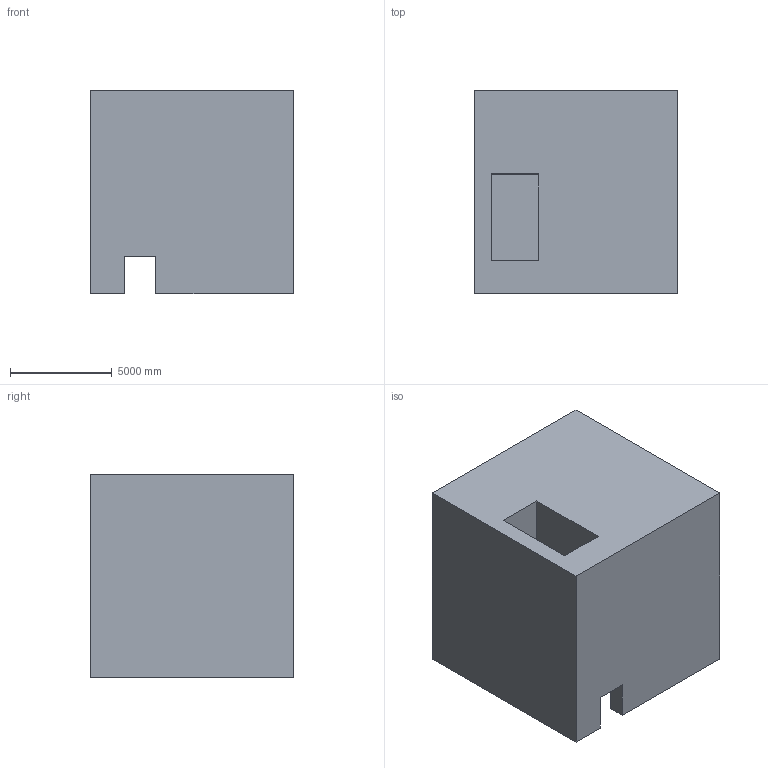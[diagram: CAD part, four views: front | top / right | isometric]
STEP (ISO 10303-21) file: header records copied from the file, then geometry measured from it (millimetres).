
FILE_DESCRIPTION (( 'STEP AP203' ), '1' );
FILE_NAME ('52.STEP', '2022-08-31T11:18:16', ( 'user' ), ( '' ), 'SwSTEP 2.0', 'SolidWorks 2021', '' );
FILE_SCHEMA (( 'CONFIG_CONTROL_DESIGN' ));
Length unit declared in the file: centimetre
Products named in the file (1): 52
Bounding box: 10000 x 10000 x 10000 mm (x, y, z)
Volume: 913470409385.1 mm3; surface area: 694664326.3 mm2
Topology: 1 solids, 1 shells, 23 faces, 60 edges, 40 vertices
Faces by surface type: plane 23
Entity records: 771 total; most frequent: CARTESIAN_POINT 124, ORIENTED_EDGE 120, DIRECTION 108, VECTOR 60, EDGE_CURVE 60, LINE 60, VERTEX_POINT 40, EDGE_LOOP 24
